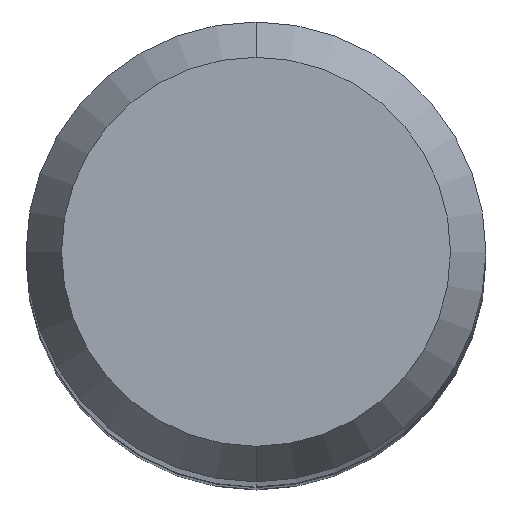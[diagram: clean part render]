
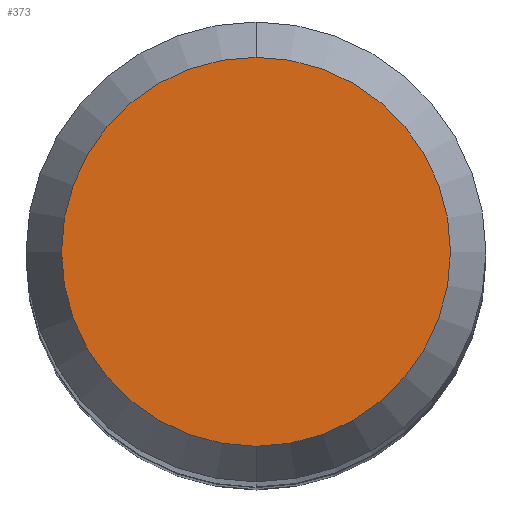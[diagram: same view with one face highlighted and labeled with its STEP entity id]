
A CAD part, top view. The second image highlights one B-rep face of the part: STEP entity #373.
In plain terms, the highlighted planar face has unit normal (0, 0, 1).
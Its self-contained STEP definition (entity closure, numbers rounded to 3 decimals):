
#303=EDGE_CURVE('',#493,#377,#717,.T.);
#373=ADVANCED_FACE('',(#795),#796,.T.);
#377=VERTEX_POINT('',#800);
#379=EDGE_CURVE('',#377,#493,#802,.T.);
#493=VERTEX_POINT('',#934);
#717=CIRCLE('',#1243,2.538);
#795=FACE_OUTER_BOUND('',#1372,.T.);
#796=PLANE('',#1373);
#800=CARTESIAN_POINT('',(0.0,2.538,0.0));
#802=CIRCLE('',#1382,2.538);
#934=CARTESIAN_POINT('',(0.,-2.538,0.0));
#1243=AXIS2_PLACEMENT_3D('',#1946,#1947,#1948);
#1372=EDGE_LOOP('',(#2030,#2031));
#1373=AXIS2_PLACEMENT_3D('',#2032,#2033,#2034);
#1382=AXIS2_PLACEMENT_3D('',#2036,#2037,#2038);
#1946=CARTESIAN_POINT('',(0.0,0.0,0.0));
#1947=DIRECTION('',(0.0,0.0,-1.0));
#1948=DIRECTION('',(0.0,1.0,0.0));
#2030=ORIENTED_EDGE('',*,*,#379,.F.);
#2031=ORIENTED_EDGE('',*,*,#303,.F.);
#2032=CARTESIAN_POINT('',(0.0,1.269,0.0));
#2033=DIRECTION('',(-0.0,0.0,1.0));
#2034=DIRECTION('',(0.0,-1.0,0.0));
#2036=CARTESIAN_POINT('',(0.0,0.0,0.0));
#2037=DIRECTION('',(0.0,0.0,-1.0));
#2038=DIRECTION('',(0.0,1.0,0.0));
